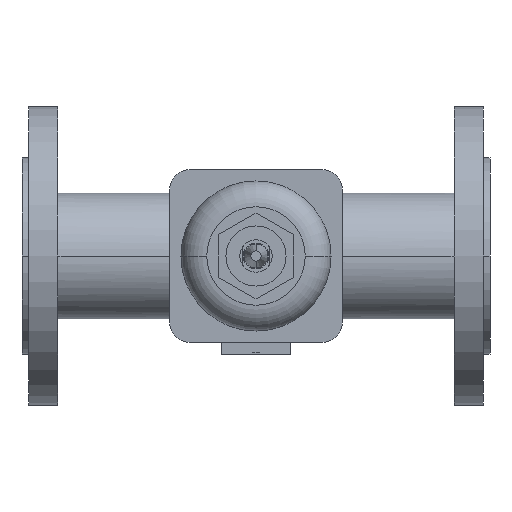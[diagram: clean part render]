
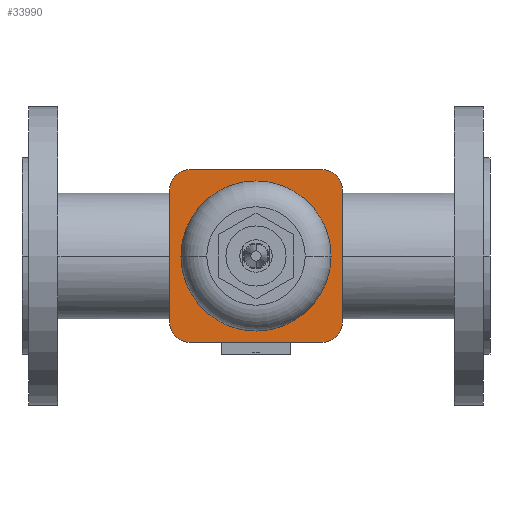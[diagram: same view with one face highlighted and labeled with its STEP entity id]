
A CAD part, front view. The second image highlights one B-rep face of the part: STEP entity #33990.
In plain terms, the highlighted planar face has unit normal (0, -1, 0).
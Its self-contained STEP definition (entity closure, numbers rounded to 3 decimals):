
#8290=CARTESIAN_POINT('',(191.5,-111.15,0.));
#8300=VERTEX_POINT('',#8290);
#8350=CARTESIAN_POINT('',(145.,-111.15,0.));
#8360=DIRECTION('',(0.,1.,0.));
#8370=DIRECTION('',(1.,0.,0.));
#8380=AXIS2_PLACEMENT_3D('',#8350,#8360,#8370);
#8390=CIRCLE('',#8380,46.5);
#8400=CARTESIAN_POINT('',(98.5,-111.15,0.));
#8410=VERTEX_POINT('',#8400);
#8420=EDGE_CURVE('',#8300,#8410,#8390,.T.);
#24100=CARTESIAN_POINT('',(104.341,-111.15,-53.659));
#24110=VERTEX_POINT('',#24100);
#24270=CARTESIAN_POINT('',(91.341,-111.15,-40.659));
#24280=VERTEX_POINT('',#24270);
#24310=CARTESIAN_POINT('',(104.341,-111.15,-40.659));
#24320=DIRECTION('',(0.,-1.,0.));
#24330=DIRECTION('',(0.,0.,-1.));
#24340=AXIS2_PLACEMENT_3D('',#24310,#24320,#24330);
#24350=CIRCLE('',#24340,13.);
#24360=EDGE_CURVE('',#24280,#24110,#24350,.T.);
#26890=CARTESIAN_POINT('',(91.341,-111.15,40.659));
#26900=VERTEX_POINT('',#26890);
#26930=CARTESIAN_POINT('',(91.341,-111.15,-20.329));
#26940=DIRECTION('',(0.,0.,-1.));
#26950=VECTOR('',#26940,1.);
#26960=LINE('',#26930,#26950);
#26970=EDGE_CURVE('',#26900,#24280,#26960,.T.);
#32700=CARTESIAN_POINT('',(185.659,-111.15,-53.659));
#32710=VERTEX_POINT('',#32700);
#32760=CARTESIAN_POINT('',(194.829,-111.15,-53.659));
#32770=DIRECTION('',(1.,0.,0.));
#32780=VECTOR('',#32770,1.);
#32790=LINE('',#32760,#32780);
#32800=EDGE_CURVE('',#24110,#32710,#32790,.T.);
#33430=CARTESIAN_POINT('',(204.,-111.15,0.));
#33440=DIRECTION('',(0.,-1.,0.));
#33450=DIRECTION('',(-1.,0.,0.));
#33460=AXIS2_PLACEMENT_3D('',#33430,#33440,#33450);
#33470=PLANE('',#33460);
#33480=CARTESIAN_POINT('',(104.341,-111.15,40.659));
#33490=DIRECTION('',(0.,-1.,0.));
#33500=DIRECTION('',(-1.,0.,0.));
#33510=AXIS2_PLACEMENT_3D('',#33480,#33490,#33500);
#33520=CIRCLE('',#33510,13.);
#33530=CARTESIAN_POINT('',(104.341,-111.15,53.659));
#33540=VERTEX_POINT('',#33530);
#33550=EDGE_CURVE('',#33540,#26900,#33520,.T.);
#33560=ORIENTED_EDGE('',*,*,#33550,.T.);
#33570=CARTESIAN_POINT('',(154.171,-111.15,53.659));
#33580=DIRECTION('',(-1.,0.,0.));
#33590=VECTOR('',#33580,1.);
#33600=LINE('',#33570,#33590);
#33610=CARTESIAN_POINT('',(185.659,-111.15,53.659));
#33620=VERTEX_POINT('',#33610);
#33630=EDGE_CURVE('',#33620,#33540,#33600,.T.);
#33640=ORIENTED_EDGE('',*,*,#33630,.T.);
#33650=CARTESIAN_POINT('',(185.659,-111.15,40.659));
#33660=DIRECTION('',(0.,-1.,0.));
#33670=DIRECTION('',(0.,0.,1.));
#33680=AXIS2_PLACEMENT_3D('',#33650,#33660,#33670);
#33690=CIRCLE('',#33680,13.);
#33700=CARTESIAN_POINT('',(198.659,-111.15,40.659));
#33710=VERTEX_POINT('',#33700);
#33720=EDGE_CURVE('',#33710,#33620,#33690,.T.);
#33730=ORIENTED_EDGE('',*,*,#33720,.T.);
#33740=CARTESIAN_POINT('',(198.659,-111.15,20.329));
#33750=DIRECTION('',(0.,0.,1.));
#33760=VECTOR('',#33750,1.);
#33770=LINE('',#33740,#33760);
#33780=CARTESIAN_POINT('',(198.659,-111.15,-40.659));
#33790=VERTEX_POINT('',#33780);
#33800=EDGE_CURVE('',#33790,#33710,#33770,.T.);
#33810=ORIENTED_EDGE('',*,*,#33800,.T.);
#33820=CARTESIAN_POINT('',(185.659,-111.15,-40.659));
#33830=DIRECTION('',(0.,-1.,0.));
#33840=DIRECTION('',(1.,0.,0.));
#33850=AXIS2_PLACEMENT_3D('',#33820,#33830,#33840);
#33860=CIRCLE('',#33850,13.);
#33870=EDGE_CURVE('',#32710,#33790,#33860,.T.);
#33880=ORIENTED_EDGE('',*,*,#33870,.T.);
#33890=ORIENTED_EDGE('',*,*,#32800,.T.);
#33900=ORIENTED_EDGE('',*,*,#24360,.T.);
#33910=ORIENTED_EDGE('',*,*,#26970,.T.);
#33920=EDGE_LOOP('',(#33910,#33900,#33890,#33880,#33810,#33730,#33640,
#33560));
#33930=FACE_OUTER_BOUND('',#33920,.T.);
#33940=EDGE_CURVE('',#8410,#8300,#8390,.T.);
#33950=ORIENTED_EDGE('',*,*,#33940,.T.);
#33960=ORIENTED_EDGE('',*,*,#8420,.T.);
#33970=EDGE_LOOP('',(#33960,#33950));
#33980=FACE_BOUND('',#33970,.T.);
#33990=ADVANCED_FACE('',(#33930,#33980),#33470,.T.);
